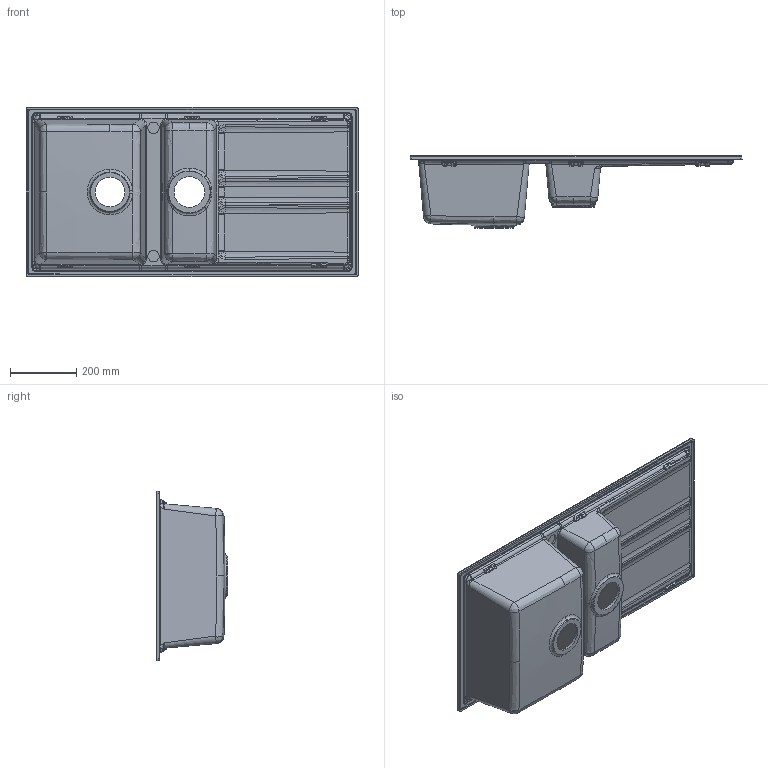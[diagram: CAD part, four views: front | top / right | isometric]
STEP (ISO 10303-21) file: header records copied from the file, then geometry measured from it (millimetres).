
FILE_DESCRIPTION (( 'STEP AP203' ), '1' );
FILE_NAME ('Best475.STEP', '2018-10-10T09:20:32', ( '' ), ( '' ), 'SwSTEP 2.0', 'SolidWorks 2013', '' );
FILE_SCHEMA (( 'CONFIG_CONTROL_DESIGN' ));
Length unit declared in the file: millimetre
Products named in the file (1): Best475
Bounding box: 1000 x 216.51 x 510 mm (x, y, z)
Volume: 7322393.8 mm3; surface area: 1770896.4 mm2
Topology: 1 solids, 1 shells, 875 faces, 2062 edges, 1159 vertices
Faces by surface type: bspline 480, cylinder 271, plane 111, cone 13
Entity records: 49056 total; most frequent: CARTESIAN_POINT 32335, ORIENTED_EDGE 4028, DIRECTION 2761, EDGE_CURVE 2014, VERTEX_POINT 1159, AXIS2_PLACEMENT_3D 1124, EDGE_LOOP 899, FACE_OUTER_BOUND 875
